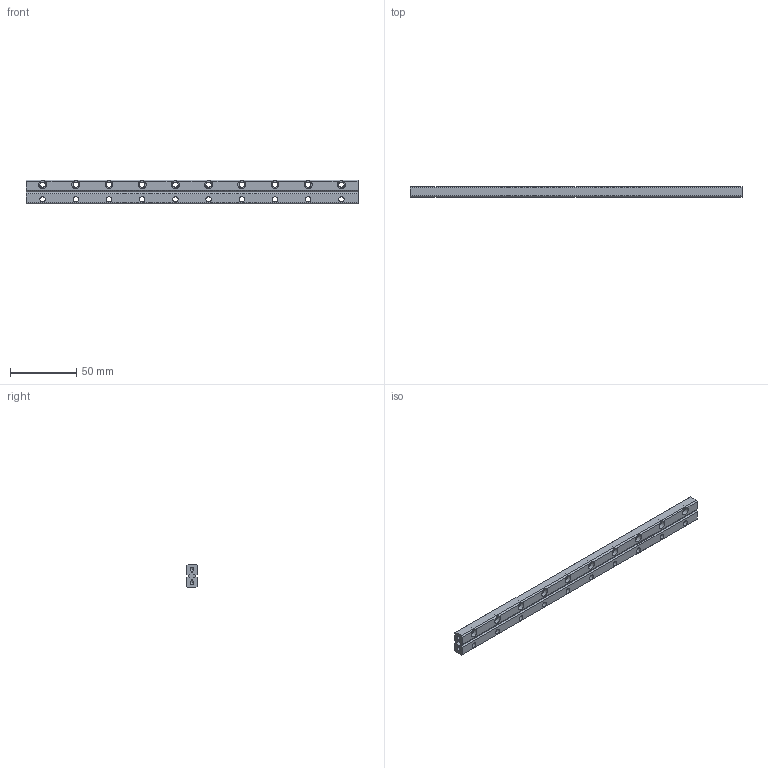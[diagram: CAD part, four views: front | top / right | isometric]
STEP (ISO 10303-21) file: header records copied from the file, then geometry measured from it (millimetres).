
FILE_DESCRIPTION((''),'2;1');
FILE_NAME('D:\製品 (図面)\カタログ用3D\リニアガイド関連\STEP形式\ACS3\ACS3250.stp','2010-07-29T15:36:02',('Tsuchiya'),(''),'Autodesk Inventor 10','Autodesk Inventor 10','');
FILE_SCHEMA(('AUTOMOTIVE_DESIGN { 1 0 10303 214 1 1 1 1 }'));
Length unit declared in the file: millimetre
Products named in the file (4): ACS3250; ACS32501; ACS32502; ACS32503
Assembly tree (3 placements, depth 2):
  ACS3250
    ACS32501
    ACS32502
    ACS32503
Bounding box: 250 x 8 x 18 mm (x, y, z)
Volume: 29857.7 mm3; surface area: 22281.9 mm2
Topology: 3 solids, 3 shells, 122 faces, 334 edges, 222 vertices
Faces by surface type: bspline 64, plane 52, cylinder 4, cone 2
Full cylindrical faces by diameter (mm): 3 x2
Entity records: 4175 total; most frequent: CARTESIAN_POINT 1393, ORIENTED_EDGE 520, DIRECTION 502, EDGE_CURVE 260, EDGE_LOOP 214, VERTEX_POINT 196, AXIS2_PLACEMENT_3D 177, VECTOR 148
